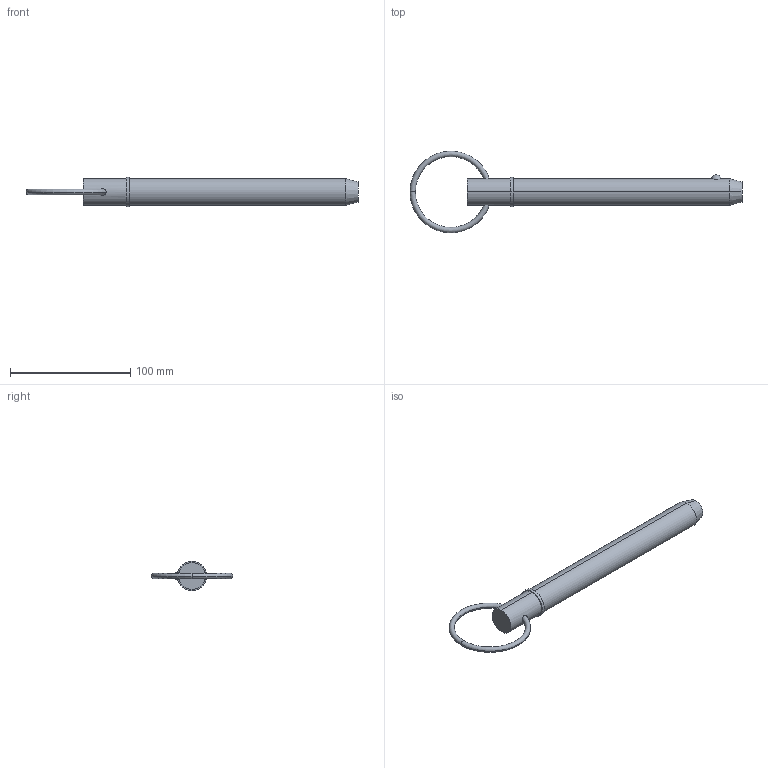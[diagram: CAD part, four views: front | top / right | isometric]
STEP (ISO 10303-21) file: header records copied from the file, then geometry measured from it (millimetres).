
FILE_DESCRIPTION (( 'STEP AP203' ), '1' );
FILE_NAME ('33014.W8865.step', '2024-11-04T08:38:26', ( '' ), ( '' ), 'SwSTEP 2.0', 'SolidWorks 2019', '' );
FILE_SCHEMA (( 'CONFIG_CONTROL_DESIGN' ));
Length unit declared in the file: millimetre
Products named in the file (3): 33014.W8865; Part2_33014.W8865; Part1_33014.W8865
Assembly tree (2 placements, depth 2):
  33014.W8865
    Part1_33014.W8865
    Part2_33014.W8865
Bounding box: 276.21 x 67.95 x 24.45 mm (x, y, z)
Volume: 90637.9 mm3; surface area: 19843 mm2
Topology: 2 solids, 2 shells, 22 faces, 43 edges, 26 vertices
Faces by surface type: torus 8, cylinder 6, plane 4, sphere 2, cone 2
Entity records: 1065 total; most frequent: CARTESIAN_POINT 288, DIRECTION 120, ORIENTED_EDGE 86, AXIS2_PLACEMENT_3D 56, EDGE_CURVE 43, CIRCLE 29, EDGE_LOOP 27, VERTEX_POINT 26
